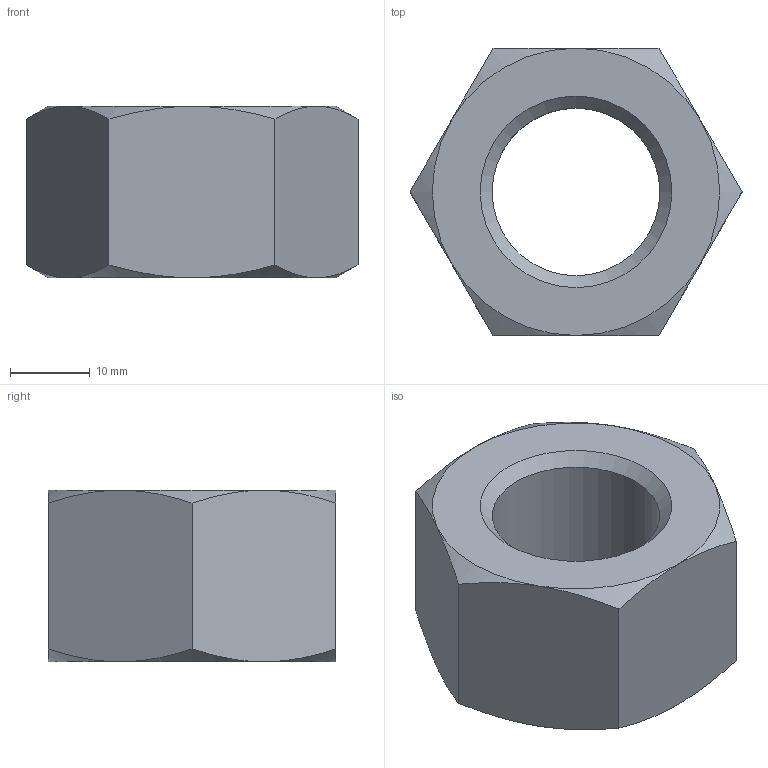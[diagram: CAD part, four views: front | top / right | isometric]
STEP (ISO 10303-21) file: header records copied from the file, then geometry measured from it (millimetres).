
FILE_DESCRIPTION( ( 'Unknown' ), '1' );
FILE_NAME( 'E:/-=Projekty=-/Projekty PKM/Solid Edge Standard Parts/nakrętki 4032/M24_PN-EN-ISO 4032_2004.stp', 'Unknown', ( 'Unknown' ), ( 'Unknown' ), 'PSStep 14.0', 'Unknown', ' ' );
FILE_SCHEMA( ( 'AUTOMOTIVE_DESIGN { 1 0 10303 214 1 1 1 1 }' ) );
Length unit declared in the file: millimetre
Products named in the file (1): 1
Bounding box: 41.57 x 36 x 21.5 mm (x, y, z)
Volume: 16426.1 mm3; surface area: 5435.3 mm2
Topology: 1 solids, 1 shells, 13 faces, 29 edges, 18 vertices
Faces by surface type: plane 8, cone 4, cylinder 1
Full cylindrical faces by diameter (mm): 21 x1
Entity records: 588 total; most frequent: CARTESIAN_POINT 212, ORIENTED_EDGE 48, DIRECTION 46, EDGE_CURVE 24, AXIS2_PLACEMENT_3D 20, EDGE_LOOP 20, VERTEX_POINT 18, FACE_OUTER_BOUND 14
